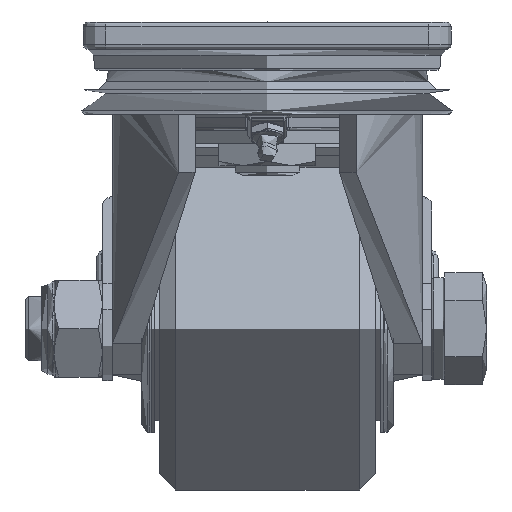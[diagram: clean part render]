
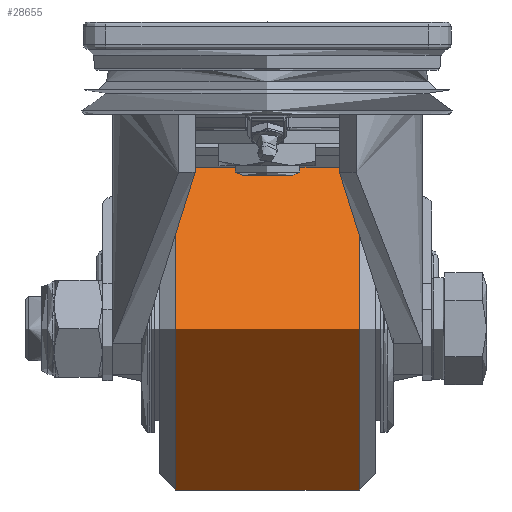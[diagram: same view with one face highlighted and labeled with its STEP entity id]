
A CAD part, left-side view. The second image highlights one B-rep face of the part: STEP entity #28655.
In plain terms, the highlighted cylindrical face has radius 50 mm (diameter 100 mm), a full revolution.
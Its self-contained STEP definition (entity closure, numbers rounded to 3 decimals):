
#6756=CYLINDRICAL_SURFACE('',#30487,50.);
#7210=FACE_BOUND('',#9274,.T.);
#7477=FACE_OUTER_BOUND('',#9273,.T.);
#9273=EDGE_LOOP('',(#19694));
#9274=EDGE_LOOP('',(#19695));
#11333=CIRCLE('',#30485,50.);
#11335=CIRCLE('',#30488,50.);
#12436=VERTEX_POINT('',#40243);
#12438=VERTEX_POINT('',#40248);
#15276=EDGE_CURVE('',#12436,#12436,#11333,.T.);
#15278=EDGE_CURVE('',#12438,#12438,#11335,.T.);
#19694=ORIENTED_EDGE('',*,*,#15276,.T.);
#19695=ORIENTED_EDGE('',*,*,#15278,.F.);
#28655=ADVANCED_FACE('',(#7477,#7210),#6756,.T.);
#30485=AXIS2_PLACEMENT_3D('',#40244,#33011,#33012);
#30487=AXIS2_PLACEMENT_3D('',#40247,#33015,#33016);
#30488=AXIS2_PLACEMENT_3D('',#40249,#33017,#33018);
#33011=DIRECTION('center_axis',(0.,1.,0.));
#33012=DIRECTION('ref_axis',(1.,0.,0.));
#33015=DIRECTION('center_axis',(0.,1.,0.));
#33016=DIRECTION('ref_axis',(0.,0.,-1.));
#33017=DIRECTION('center_axis',(0.,1.,0.));
#33018=DIRECTION('ref_axis',(1.,0.,0.));
#40243=CARTESIAN_POINT('',(37.134,-28.5,-115.));
#40244=CARTESIAN_POINT('Origin',(37.134,-28.5,-65.));
#40247=CARTESIAN_POINT('Origin',(37.134,0.,
-65.));
#40248=CARTESIAN_POINT('',(37.134,28.5,-115.));
#40249=CARTESIAN_POINT('Origin',(37.134,28.5,-65.));
